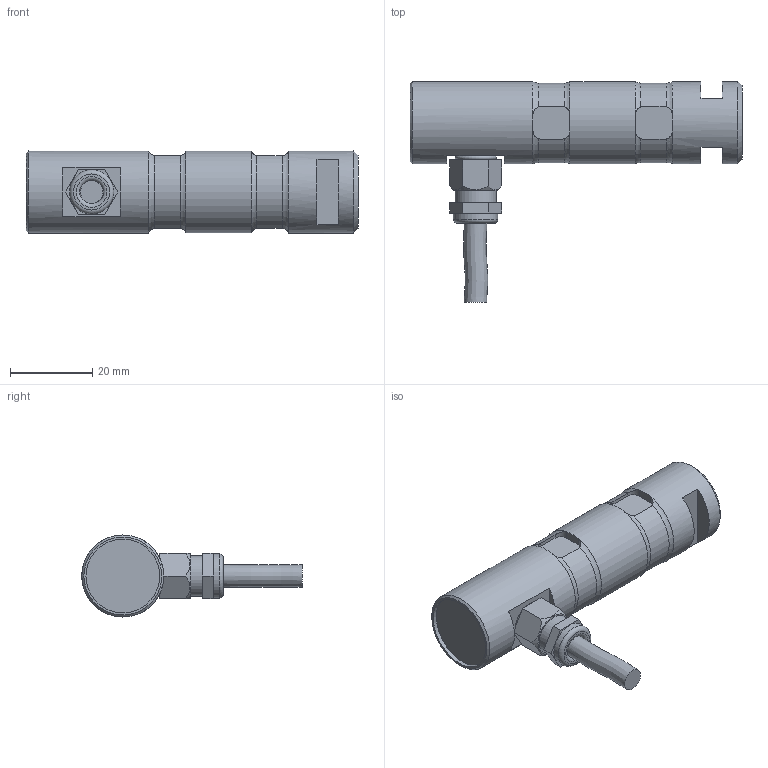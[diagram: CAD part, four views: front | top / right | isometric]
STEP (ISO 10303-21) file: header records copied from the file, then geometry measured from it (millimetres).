
FILE_DESCRIPTION(/* description */ ('Alibre Inc.'),/* implementation_level */ '2;1');
FILE_NAME(/* name */ 'export-48F5C781-B9BB-42CB-9247-0027605B904B',/* time_stamp */ '2020-03-02T15:33:40+01:00',/* author */ (''),/* organization */ (''),/* preprocessor_version */ 'ST-DEVELOPER v17',/* originating_system */ 'Alibre',/* authorisation */ '');
FILE_SCHEMA (('AUTOMOTIVE_DESIGN'));
Length unit declared in the file: centimetre
Bounding box: 80.96 x 53.73 x 20 mm (x, y, z)
Volume: 25335.6 mm3; surface area: 7805.1 mm2
Topology: 4 solids, 4 shells, 99 faces, 227 edges, 143 vertices
Faces by surface type: plane 53, cylinder 29, torus 11, cone 5, bspline 1
Full cylindrical faces by diameter (mm): 5.5 x1, 7 x1, 8 x1, 10 x1, 10.8 x1, 18 x1, 20 x3
Entity records: 2983 total; most frequent: CARTESIAN_POINT 891, ORIENTED_EDGE 412, DIRECTION 338, EDGE_CURVE 206, AXIS2_PLACEMENT_3D 147, VERTEX_POINT 140, FACE_BOUND 126, EDGE_LOOP 125
